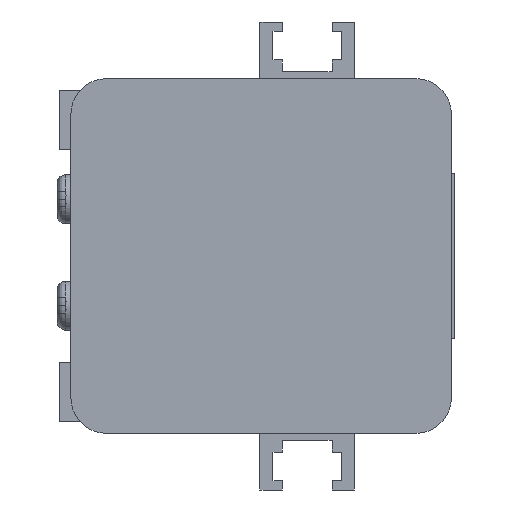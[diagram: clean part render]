
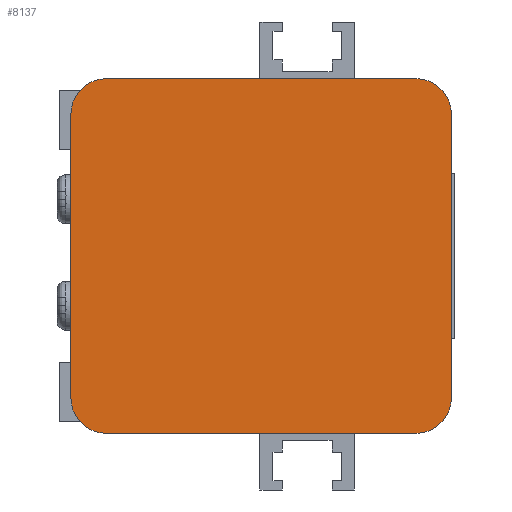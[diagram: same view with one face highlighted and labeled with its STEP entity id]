
A CAD part, left-side view. The second image highlights one B-rep face of the part: STEP entity #8137.
In plain terms, the highlighted planar face has unit normal (-1, 0, 0) as drawn and (0, 0, -1) by its records, which use the part's own axes.
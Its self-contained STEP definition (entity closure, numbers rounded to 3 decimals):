
#646=LINE('',#12441,#1430);
#652=LINE('',#12455,#1436);
#655=LINE('',#12468,#1439);
#689=LINE('',#12538,#1473);
#1430=VECTOR('',#9563,26.2);
#1436=VECTOR('',#9577,24.);
#1439=VECTOR('',#9596,26.2);
#1473=VECTOR('',#9638,24.);
#2067=PLANE('',#8672);
#2537=FACE_OUTER_BOUND('',#3036,.T.);
#3036=EDGE_LOOP('',(#6241,#6242,#6243,#6244,#6245,#6246,#6247,#6248));
#3447=CIRCLE('',#8659,3.);
#3452=CIRCLE('',#8668,3.);
#3453=CIRCLE('',#8673,3.);
#3454=CIRCLE('',#8674,3.);
#3828=VERTEX_POINT('',#12439);
#3829=VERTEX_POINT('',#12440);
#3832=VERTEX_POINT('',#12449);
#3833=VERTEX_POINT('',#12454);
#3834=VERTEX_POINT('',#12463);
#3835=VERTEX_POINT('',#12467);
#3866=VERTEX_POINT('',#12535);
#3867=VERTEX_POINT('',#12537);
#4745=EDGE_CURVE('',#3828,#3829,#646,.T.);
#4750=EDGE_CURVE('',#3829,#3832,#3447,.T.);
#4753=EDGE_CURVE('',#3832,#3833,#652,.T.);
#4758=EDGE_CURVE('',#3833,#3834,#3452,.T.);
#4760=EDGE_CURVE('',#3834,#3835,#655,.T.);
#4794=EDGE_CURVE('',#3866,#3828,#3453,.T.);
#4795=EDGE_CURVE('',#3867,#3866,#689,.T.);
#4796=EDGE_CURVE('',#3835,#3867,#3454,.T.);
#6241=ORIENTED_EDGE('',*,*,#4758,.F.);
#6242=ORIENTED_EDGE('',*,*,#4753,.F.);
#6243=ORIENTED_EDGE('',*,*,#4750,.F.);
#6244=ORIENTED_EDGE('',*,*,#4745,.F.);
#6245=ORIENTED_EDGE('',*,*,#4794,.F.);
#6246=ORIENTED_EDGE('',*,*,#4795,.F.);
#6247=ORIENTED_EDGE('',*,*,#4796,.F.);
#6248=ORIENTED_EDGE('',*,*,#4760,.F.);
#8137=ADVANCED_FACE('',(#2537),#2067,.F.);
#8659=AXIS2_PLACEMENT_3D('',#12450,#9570,#9571);
#8668=AXIS2_PLACEMENT_3D('',#12464,#9591,#9592);
#8672=AXIS2_PLACEMENT_3D('',#12534,#9634,#9635);
#8673=AXIS2_PLACEMENT_3D('',#12536,#9636,#9637);
#8674=AXIS2_PLACEMENT_3D('',#12539,#9639,#9640);
#9563=DIRECTION('',(0.,1.,0.));
#9570=DIRECTION('center_axis',(0.,0.,1.));
#9571=DIRECTION('ref_axis',(0.,-1.,0.));
#9577=DIRECTION('',(-1.,0.,0.));
#9591=DIRECTION('center_axis',(0.,0.,1.));
#9592=DIRECTION('ref_axis',(1.,0.,0.));
#9596=DIRECTION('',(0.,-1.,0.));
#9634=DIRECTION('center_axis',(0.,0.,1.));
#9635=DIRECTION('ref_axis',(1.,0.,0.));
#9636=DIRECTION('center_axis',(0.,0.,1.));
#9637=DIRECTION('ref_axis',(-1.,0.,0.));
#9638=DIRECTION('',(1.,0.,0.));
#9639=DIRECTION('center_axis',(0.,0.,1.));
#9640=DIRECTION('ref_axis',(0.,1.,0.));
#12439=CARTESIAN_POINT('',(17.105,-11.4,-330.));
#12440=CARTESIAN_POINT('',(17.105,14.8,-330.));
#12441=CARTESIAN_POINT('',(17.105,-11.4,-330.));
#12449=CARTESIAN_POINT('',(14.105,17.8,-330.));
#12450=CARTESIAN_POINT('Origin',(14.105,14.8,-330.));
#12454=CARTESIAN_POINT('',(-9.895,17.8,-330.));
#12455=CARTESIAN_POINT('',(14.105,17.8,-330.));
#12463=CARTESIAN_POINT('',(-12.895,14.8,-330.));
#12464=CARTESIAN_POINT('Origin',(-9.895,14.8,-330.));
#12467=CARTESIAN_POINT('',(-12.895,-11.4,-330.));
#12468=CARTESIAN_POINT('',(-12.895,14.8,-330.));
#12534=CARTESIAN_POINT('Origin',(2.105,1.7,-330.));
#12535=CARTESIAN_POINT('',(14.105,-14.4,-330.));
#12536=CARTESIAN_POINT('Origin',(14.105,-11.4,-330.));
#12537=CARTESIAN_POINT('',(-9.895,-14.4,-330.));
#12538=CARTESIAN_POINT('',(-9.895,-14.4,-330.));
#12539=CARTESIAN_POINT('Origin',(-9.895,-11.4,-330.));
